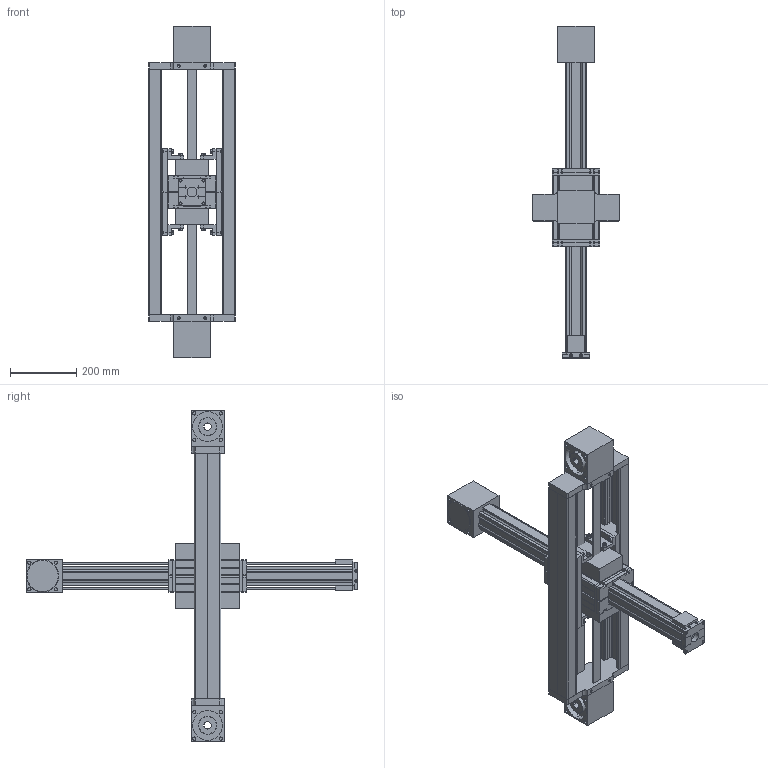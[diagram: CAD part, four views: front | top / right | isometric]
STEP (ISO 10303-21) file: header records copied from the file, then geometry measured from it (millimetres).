
FILE_DESCRIPTION (( 'STEP AP214' ), '1' );
FILE_NAME ('ELZI60.STEP', '2022-07-12T13:55:24', ( '' ), ( '' ), 'SwSTEP 2.0', 'SolidWorks 2020', '' );
FILE_SCHEMA (( 'AUTOMOTIVE_DESIGN' ));
Length unit declared in the file: millimetre
Products named in the file (11): carriage z^ELZI60; carriage x^ELZI60_carriage version 0; ELZI60; timing belt reverse unit y^ELZI60_ELZI-60; timing belt reverse unit x^ELZI60_coupling claw pos.2; end block^ELZI60; profile z^ELZI60_standard; end plate^ELZI60; profile x^ELZI60; connecting angle^ELZI60; timing belt reverse unit x^ELZI60_coupling claw pos.1
Assembly tree (15 placements, depth 2):
  ELZI60
    profile z^ELZI60_standard
    profile x^ELZI60
    carriage z^ELZI60
    carriage x^ELZI60_carriage version 0  x2
    connecting angle^ELZI60  x4
    timing belt reverse unit y^ELZI60_ELZI-60
    end block^ELZI60
    end plate^ELZI60  x2
    timing belt reverse unit x^ELZI60_coupling claw pos.1
    timing belt reverse unit x^ELZI60_coupling claw pos.2
Bounding box: 262 x 1000 x 1000 mm (x, y, z)
Volume: 15911447.4 mm3; surface area: 2332308.9 mm2
Topology: 41 solids, 41 shells, 1388 faces, 3492 edges, 2284 vertices
Faces by surface type: plane 822, cylinder 470, cone 80, torus 16
Entity records: 34145 total; most frequent: DIRECTION 5787, CARTESIAN_POINT 5698, ORIENTED_EDGE 5542, EDGE_CURVE 2771, VECTOR 1961, LINE 1961, AXIS2_PLACEMENT_3D 1913, VERTEX_POINT 1824
